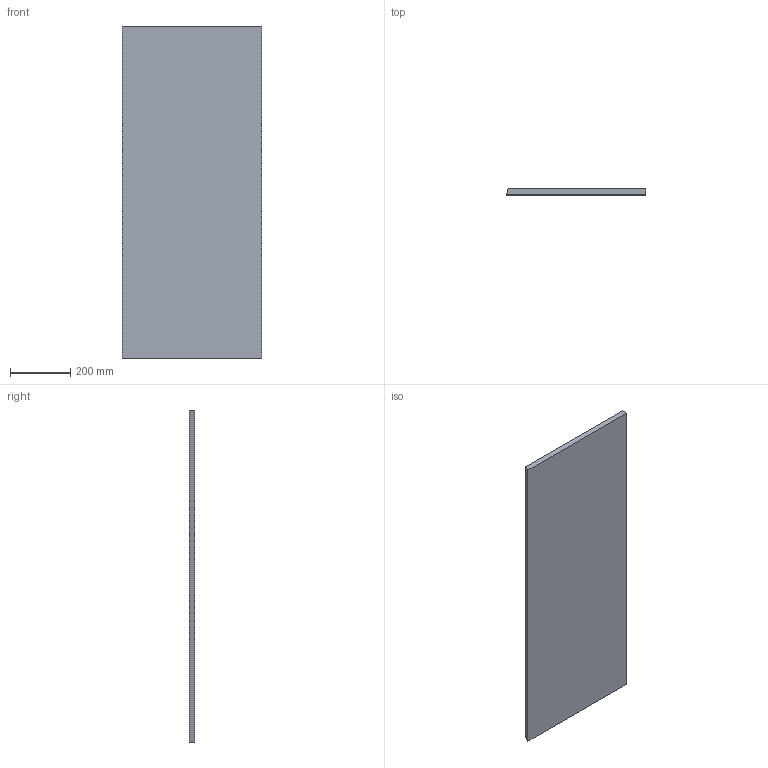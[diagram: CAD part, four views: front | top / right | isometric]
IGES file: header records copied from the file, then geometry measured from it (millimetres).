
Start section:  PTC IGES file: C:\Documents and Settings\Brad\Desktop\LABsub_CAD\mouth_ back.igs
Global section: file name: C:\Documents and Settings\Brad\Desktop\LABsub_CAD\mouth_back.igs; native system: Brad by Parametric Technology Corporation; preprocessor: 2003250; author: Unknown; organization: PTC; date: 040522.160822; units: inch
Bounding box: 464.13 x 19.05 x 1104.9 mm (x, y, z)
Volume: 9696274.1 mm3; surface area: 1078980.5 mm2
Topology: 1 solids, 1 shells, 6 faces, 12 edges, 8 vertices
Faces by surface type: bspline 6
